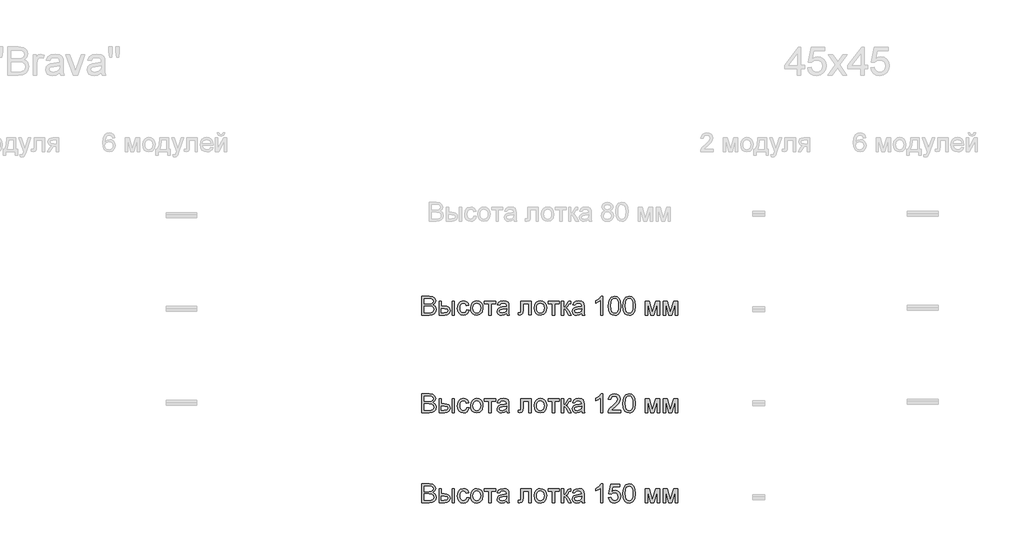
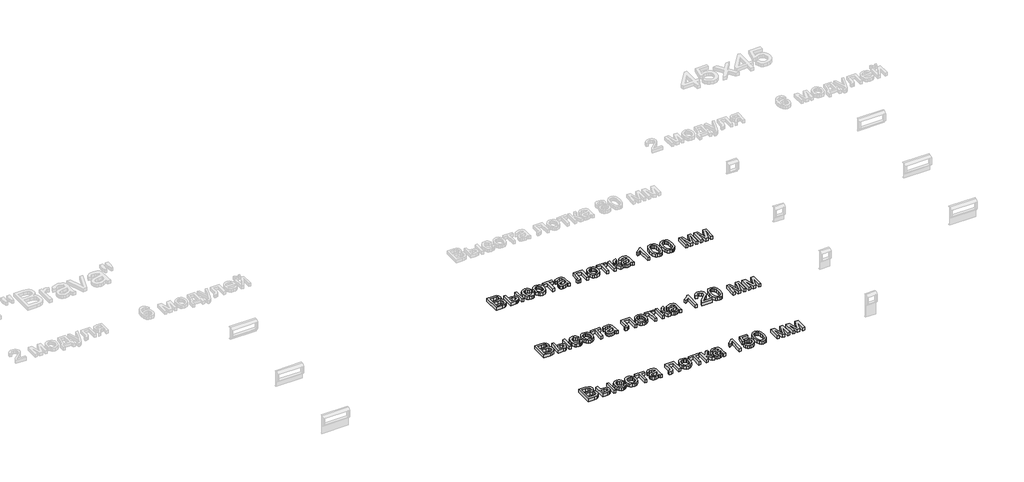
# One storey, part 11 of 28: 3 proxies.
"""IFC4 building model written with IfcOpenShell, lengths in millimetres."""

from ifc_helpers import new_model, si_unit, origin, origin_with_axes, place, context, project, spatial, polyline, outline, extrude, element, save

model = new_model("IFC4")

# Units and contexts
model_context = context("Model", 3, world=origin())
ifc_project = project(units=[si_unit("LENGTHUNIT", "METRE", prefix="MILLI")], contexts=[model_context])

# Site, building, storey
site = spatial("IfcSite", under=ifc_project)
building = spatial("IfcBuilding", under=site)
storey = spatial("IfcBuildingStorey", under=building, Name="Этаж 01", Elevation=0.0)

# Proxies
placement = place(None, origin())
element("IfcBuildingElementProxy", 1, Name="100 мм Arial", ObjectType="100 мм Arial", at=placement, inside=storey, context=model_context, shape_type="SweptSolid", body=[
    extrude(outline(polyline([(9877.0688437, -12466.5703412), (9877.0688437, -12366.114031), (9915.4021476, -12366.114031), (9934.1763921, -12369.0693497), (9945.2619029, -12378.156035), (9949.2718166, -12391.0073794), (9945.899565, -12402.742815), (9935.7092337, -12411.6332966), (9948.0823315, -12421.0020247), (9952.4110763, -12436.6247468), (9949.4557576, -12450.126016), (9942.1349059, -12459.7399988), (9931.2088107, -12464.8412958), (9915.107842, -12466.5703412), (9877.0688437, -12466.5703412)]), holes=[polyline([(9889.6258825, -12406.924407), (9912.5571935, -12406.924407), (9925.9480981, -12405.8452865), (9934.0047138, -12401.1977106), (9936.7147778, -12393.0184676), (9934.1886548, -12384.8269619), (9926.9536422, -12379.9831823), (9910.8158854, -12378.6710698), (9889.6258825, -12378.6710698), (9889.6258825, -12406.924407)]), polyline([(9889.6258825, -12454.0133024), (9915.3776221, -12454.0133024), (9924.6972993, -12453.5227931), (9932.5822368, -12450.7882036), (9937.8061611, -12445.20866), (9939.8540375, -12436.7473741), (9937.4505418, -12426.9862385), (9929.6637063, -12421.1614402), (9914.1513488, -12419.4814458), (9889.6258825, -12419.4814458), (9889.6258825, -12454.0133024)])]), origin_with_axes(), (0.0, 0.0, 1.0), 20.0),
    extrude(outline(polyline([(10037.171088, -12392.7977384), (10049.7281268, -12392.7977384), (10049.7281268, -12466.5703412), (10037.171088, -12466.5703412), (10037.171088, -12392.7977384)])), origin_with_axes(), (0.0, 0.0, 1.0), 20.0),
    extrude(outline(polyline([(9968.1073748, -12392.7977384), (9980.6644135, -12392.7977384), (9980.6644135, -12419.4814458), (9996.1890337, -12419.4814458), (10009.6075295, -12421.0541413), (10019.5495404, -12425.7722279), (10025.7023668, -12433.2555608), (10027.7533089, -12443.1239954), (10026.0334606, -12452.1095131), (10020.8739156, -12459.6909479), (10011.9374488, -12464.8504929), (9998.886835, -12466.5703412), (9968.1073748, -12466.5703412), (9968.1073748, -12392.7977384)]), holes=[polyline([(9980.6644135, -12454.0133024), (9993.5648088, -12454.0133024), (10010.2176005, -12451.3768148), (10015.1962702, -12443.1485208), (10011.5051875, -12435.4229989), (9995.2080151, -12432.0384846), (9980.6644135, -12432.0384846), (9980.6644135, -12454.0133024)])]), origin_with_axes(), (0.0, 0.0, 1.0), 20.0),
    extrude(outline(polyline([(10115.6525803, -12439.8866338), (10128.2096191, -12441.4562636), (10124.7086087, -12452.6245479), (10118.1296524, -12461.064374), (10109.0920181, -12466.3710718), (10098.2149737, -12468.139971), (10084.8577916, -12465.672096), (10074.4130086, -12458.2684708), (10067.6715711, -12446.254058), (10065.4244252, -12429.9538199), (10069.2626607, -12409.0949108), (10080.9613082, -12395.6917434), (10098.0432955, -12391.2281086), (10108.6536253, -12392.7609502), (10117.136371, -12397.3594752), (10123.2217524, -12404.7784287), (10126.6399892, -12414.7725563), (10114.0829505, -12416.3421861), (10108.2581522, -12406.9366698), (10098.1413973, -12403.7851473), (10090.0265337, -12405.3363831), (10083.5855331, -12409.9900903), (10079.3824813, -12417.9976551), (10077.981464, -12429.6104634), (10079.3518244, -12441.3796216), (10083.4629057, -12449.4147775), (10089.7874104, -12454.0408936), (10097.7980408, -12455.5829323), (10109.6315783, -12451.732434), (10115.6525803, -12439.8866338)])), origin_with_axes(), (0.0, 0.0, 1.0), 20.0),
    extrude(outline(polyline([(10136.0577683, -12429.6840398), (10138.7739637, -12411.8969453), (10146.9225499, -12399.3950889), (10156.9902538, -12393.2698536), (10169.0445205, -12391.2281086), (10182.2361557, -12393.7143777), (10192.7729092, -12401.1731852), (10199.6798937, -12413.0159197), (10201.9822218, -12428.6539702), (10197.9109944, -12450.9966701), (10186.0529314, -12463.639548), (10169.0445205, -12468.139971), (10155.6934698, -12465.6628989), (10145.168979, -12458.2316826), (10138.335571, -12446.1406277), (10136.0577683, -12429.6840398)]), holes=[polyline([(10148.6148071, -12429.6595143), (10150.0679409, -12441.0240023), (10154.4273426, -12449.1204719), (10160.9879048, -12453.9673172), (10169.0445205, -12455.5829323), (10177.064348, -12453.9581201), (10183.6126475, -12449.0836837), (10187.9720492, -12440.8799152), (10189.4251831, -12429.2671069), (10187.9628521, -12418.2337127), (10183.5758593, -12410.2476077), (10177.0183628, -12405.4007624), (10169.0445205, -12403.7851473), (10160.9879048, -12405.3946311), (10154.4273426, -12410.2230823), (10150.0679409, -12418.3011577), (10148.6148071, -12429.6595143)])]), origin_with_axes(), (0.0, 0.0, 1.0), 20.0),
    extrude(outline(polyline([(10209.8303711, -12392.7977384), (10269.4763052, -12392.7977384), (10269.4763052, -12405.3547772), (10245.9318575, -12405.3547772), (10245.9318575, -12466.5703412), (10233.3748188, -12466.5703412), (10233.3748188, -12405.3547772), (10209.8303711, -12405.3547772), (10209.8303711, -12392.7977384)])), origin_with_axes(), (0.0, 0.0, 1.0), 20.0),
    extrude(outline(polyline([(10327.5526095, -12457.1525621), (10315.3757155, -12465.6628989), (10301.9234972, -12468.139971), (10291.4296633, -12466.6500489), (10283.688813, -12462.1802827), (10278.9155441, -12455.3928599), (10277.3244544, -12446.9499681), (10279.7279501, -12437.0171542), (10286.0432577, -12429.8066671), (10294.8356374, -12425.6863888), (10305.700419, -12423.7979279), (10327.4790331, -12419.4814458), (10327.5526095, -12416.6855426), (10324.0945188, -12407.4149164), (10310.2131048, -12403.7851473), (10297.5089132, -12406.2009058), (10291.4511231, -12414.7725563), (10278.8940843, -12413.2029264), (10284.3264751, -12400.9401932), (10295.2648331, -12393.7542316), (10311.8317856, -12391.2281086), (10327.0498375, -12393.459926), (10335.6460134, -12399.0639951), (10339.4965116, -12407.5865946), (10340.1096483, -12418.5740035), (10340.1096483, -12434.1967256), (10340.7473104, -12456.0121279), (10343.248908, -12466.5703412), (10330.6918692, -12466.5703412), (10327.5526095, -12457.1525621)]), holes=[polyline([(10327.5526095, -12432.0384846), (10307.2945743, -12435.8889828), (10296.4911064, -12437.9245965), (10291.5982759, -12441.2355344), (10289.8814932, -12446.0670513), (10293.6216268, -12452.8606055), (10304.596773, -12455.5829323), (10317.3009646, -12452.5785626), (10325.4924703, -12445.3067619), (10327.4790331, -12435.5946772), (10327.5526095, -12432.0384846)])]), origin_with_axes(), (0.0, 0.0, 1.0), 20.0),
    extrude(outline(polyline([(10402.8948421, -12392.7977384), (10459.4015166, -12392.7977384), (10459.4015166, -12466.4967648), (10446.8444778, -12466.4967648), (10446.8444778, -12405.3547772), (10415.4518809, -12405.3547772), (10415.4518809, -12440.5488214), (10414.6057523, -12456.7846801), (10409.9581764, -12463.639548), (10398.9707675, -12466.5703412), (10388.7681735, -12465.9326791), (10388.7681735, -12454.0133024), (10394.3845053, -12454.0133024), (10400.0621508, -12453.2407502), (10402.3307564, -12450.7882036), (10402.8948421, -12439.8375829), (10402.8948421, -12392.7977384)])), origin_with_axes(), (0.0, 0.0, 1.0), 20.0),
    extrude(outline(polyline([(10475.0978151, -12429.6840398), (10477.8140105, -12411.8969453), (10485.9625966, -12399.3950889), (10496.0303006, -12393.2698536), (10508.0845673, -12391.2281086), (10521.2762025, -12393.7143777), (10531.812956, -12401.1731852), (10538.7199404, -12413.0159197), (10541.0222686, -12428.6539702), (10536.9510412, -12450.9966701), (10525.0929782, -12463.639548), (10508.0845673, -12468.139971), (10494.7335165, -12465.6628989), (10484.2090258, -12458.2316826), (10477.3756177, -12446.1406277), (10475.0978151, -12429.6840398)]), holes=[polyline([(10487.6548538, -12429.6595143), (10489.1079877, -12441.0240023), (10493.4673893, -12449.1204719), (10500.0279516, -12453.9673172), (10508.0845673, -12455.5829323), (10516.1043948, -12453.9581201), (10522.6526943, -12449.0836837), (10527.0120959, -12440.8799152), (10528.4652298, -12429.2671069), (10527.0028989, -12418.2337127), (10522.6159061, -12410.2476077), (10516.0584095, -12405.4007624), (10508.0845673, -12403.7851473), (10500.0279516, -12405.3946311), (10493.4673893, -12410.2230823), (10489.1079877, -12418.3011577), (10487.6548538, -12429.6595143)])]), origin_with_axes(), (0.0, 0.0, 1.0), 20.0),
    extrude(outline(polyline([(10548.8704178, -12392.7977384), (10608.516352, -12392.7977384), (10608.516352, -12405.3547772), (10584.9719043, -12405.3547772), (10584.9719043, -12466.5703412), (10572.4148655, -12466.5703412), (10572.4148655, -12405.3547772), (10548.8704178, -12405.3547772), (10548.8704178, -12392.7977384)])), origin_with_axes(), (0.0, 0.0, 1.0), 20.0),
    extrude(outline(polyline([(10619.5037609, -12392.7977384), (10632.0607997, -12392.7977384), (10632.0607997, -12424.1903353), (10640.4730346, -12421.9339924), (10647.3646907, -12408.7883425), (10653.0913871, -12397.4453143), (10658.1436331, -12393.7542316), (10667.3284203, -12392.7977384), (10669.731916, -12392.7977384), (10669.731916, -12405.4283536), (10666.3474016, -12405.3547772), (10660.216035, -12406.6791524), (10655.899553, -12414.9442345), (10650.8350442, -12423.883767), (10643.7349216, -12428.2615628), (10651.6566473, -12433.1482619), (10659.4312201, -12443.4428264), (10672.8711757, -12466.5703412), (10658.5973542, -12466.5703412), (10645.4271788, -12443.9333357), (10638.8053029, -12434.3561411), (10632.0607997, -12432.0384846), (10632.0607997, -12466.5703412), (10619.5037609, -12466.5703412), (10619.5037609, -12392.7977384)])), origin_with_axes(), (0.0, 0.0, 1.0), 20.0),
    extrude(outline(polyline([(10727.8082203, -12457.1525621), (10715.6313262, -12465.6628989), (10702.1791079, -12468.139971), (10691.685274, -12466.6500489), (10683.9444237, -12462.1802827), (10679.1711548, -12455.3928599), (10677.5800652, -12446.9499681), (10679.9835609, -12437.0171542), (10686.2988685, -12429.8066671), (10695.0912482, -12425.6863888), (10705.9560298, -12423.7979279), (10727.7346439, -12419.4814458), (10727.8082203, -12416.6855426), (10724.3501295, -12407.4149164), (10710.4687156, -12403.7851473), (10697.764524, -12406.2009058), (10691.7067338, -12414.7725563), (10679.149695, -12413.2029264), (10684.5820858, -12400.9401932), (10695.5204438, -12393.7542316), (10712.0873963, -12391.2281086), (10727.3054482, -12393.459926), (10735.9016242, -12399.0639951), (10739.7521224, -12407.5865946), (10740.365259, -12418.5740035), (10740.365259, -12434.1967256), (10741.0029212, -12456.0121279), (10743.5045187, -12466.5703412), (10730.94748, -12466.5703412), (10727.8082203, -12457.1525621)]), holes=[polyline([(10727.8082203, -12432.0384846), (10707.5501851, -12435.8889828), (10696.7467171, -12437.9245965), (10691.8538866, -12441.2355344), (10690.137104, -12446.0670513), (10693.8772376, -12452.8606055), (10704.8523838, -12455.5829323), (10717.5565753, -12452.5785626), (10725.7480811, -12445.3067619), (10727.7346439, -12435.5946772), (10727.8082203, -12432.0384846)])]), origin_with_axes(), (0.0, 0.0, 1.0), 20.0),
    extrude(outline(polyline([(10840.8215692, -12466.5703412), (10828.2645304, -12466.5703412), (10828.2645304, -12388.2850526), (10816.3696792, -12396.7586012), (10803.1504529, -12403.0984343), (10803.1504529, -12391.2281086), (10821.5568154, -12379.4804102), (10832.7281653, -12366.114031), (10840.8215692, -12366.114031), (10840.8215692, -12466.5703412)])), origin_with_axes(), (0.0, 0.0, 1.0), 20.0),
    extrude(outline(polyline([(10870.6445363, -12417.1515265), (10874.335619, -12388.2482644), (10885.2985024, -12371.58321), (10903.606763, -12366.114031), (10918.2729919, -12369.3513926), (10928.4020095, -12378.6833325), (10934.2881214, -12393.5457651), (10936.5689898, -12417.1515265), (10932.9146953, -12445.9321613), (10921.9886001, -12462.6340038), (10913.7572404, -12466.7634792), (10903.606763, -12468.139971), (10890.5592149, -12465.7487381), (10880.6509265, -12458.5750392), (10873.1461338, -12441.5850223), (10870.6445363, -12417.1515265)]), holes=[polyline([(10883.201575, -12417.127001), (10884.673103, -12436.8791985), (10889.087687, -12448.3111315), (10895.6605119, -12453.7649821), (10903.606763, -12455.5829323), (10911.5530141, -12453.7588507), (10918.1258391, -12448.286606), (10922.5404231, -12436.8485417), (10924.011951, -12417.127001), (10922.589474, -12397.8193277), (10918.3220428, -12386.2984898), (10911.7614806, -12380.5779248), (10903.4596102, -12378.6710698), (10895.5991983, -12380.3510642), (10889.2838907, -12385.3910476), (10884.722154, -12397.6292553), (10883.201575, -12417.127001)])]), origin_with_axes(), (0.0, 0.0, 1.0), 20.0),
    extrude(outline(polyline([(10947.5563987, -12417.1515265), (10951.2474814, -12388.2482644), (10962.2103649, -12371.58321), (10980.5186255, -12366.114031), (10995.1848544, -12369.3513926), (11005.313872, -12378.6833325), (11011.1999839, -12393.5457651), (11013.4808523, -12417.1515265), (11009.8265578, -12445.9321613), (10998.9004625, -12462.6340038), (10990.6691029, -12466.7634792), (10980.5186255, -12468.139971), (10967.4710774, -12465.7487381), (10957.562789, -12458.5750392), (10950.0579963, -12441.5850223), (10947.5563987, -12417.1515265)]), holes=[polyline([(10960.1134375, -12417.127001), (10961.5849655, -12436.8791985), (10965.9995494, -12448.3111315), (10972.5723744, -12453.7649821), (10980.5186255, -12455.5829323), (10988.4648766, -12453.7588507), (10995.0377016, -12448.286606), (10999.4522855, -12436.8485417), (11000.9238135, -12417.127001), (10999.5013364, -12397.8193277), (10995.2339053, -12386.2984898), (10988.6733431, -12380.5779248), (10980.3714727, -12378.6710698), (10972.5110607, -12380.3510642), (10966.1957531, -12385.3910476), (10961.6340164, -12397.6292553), (10960.1134375, -12417.127001)])]), origin_with_axes(), (0.0, 0.0, 1.0), 20.0),
    extrude(outline(polyline([(11066.848267, -12392.7977384), (11088.4552029, -12392.7977384), (11105.1079945, -12451.8550614), (11123.0606359, -12392.7977384), (11143.7601295, -12392.7977384), (11143.7601295, -12466.5703412), (11131.2030907, -12466.5703412), (11131.2030907, -12407.1696617), (11113.1523475, -12466.5703412), (11096.6712341, -12466.5703412), (11079.4053058, -12404.3247076), (11079.4053058, -12466.5703412), (11066.848267, -12466.5703412), (11066.848267, -12392.7977384)])), origin_with_axes(), (0.0, 0.0, 1.0), 20.0),
    extrude(outline(polyline([(11162.5956876, -12392.7977384), (11184.2026235, -12392.7977384), (11200.8554151, -12451.8550614), (11218.8080565, -12392.7977384), (11239.5075501, -12392.7977384), (11239.5075501, -12466.5703412), (11226.9505113, -12466.5703412), (11226.9505113, -12407.1696617), (11208.8997681, -12466.5703412), (11192.4186547, -12466.5703412), (11175.1527264, -12404.3247076), (11175.1527264, -12466.5703412), (11162.5956876, -12466.5703412), (11162.5956876, -12392.7977384)])), origin_with_axes(), (0.0, 0.0, 1.0), 20.0),
])
element("IfcBuildingElementProxy", 2, Name="100 мм Arial", ObjectType="100 мм Arial", at=placement, inside=storey, context=model_context, shape_type="SweptSolid", body=[
    extrude(outline(polyline([(9877.0688437, -12986.5703412), (9877.0688437, -12886.114031), (9915.4021476, -12886.114031), (9934.1763921, -12889.0693497), (9945.2619029, -12898.156035), (9949.2718166, -12911.0073794), (9945.899565, -12922.742815), (9935.7092337, -12931.6332966), (9948.0823315, -12941.0020247), (9952.4110763, -12956.6247468), (9949.4557576, -12970.126016), (9942.1349059, -12979.7399988), (9931.2088107, -12984.8412958), (9915.107842, -12986.5703412), (9877.0688437, -12986.5703412)]), holes=[polyline([(9889.6258825, -12926.924407), (9912.5571935, -12926.924407), (9925.9480981, -12925.8452865), (9934.0047138, -12921.1977106), (9936.7147778, -12913.0184676), (9934.1886548, -12904.8269619), (9926.9536422, -12899.9831823), (9910.8158854, -12898.6710698), (9889.6258825, -12898.6710698), (9889.6258825, -12926.924407)]), polyline([(9889.6258825, -12974.0133024), (9915.3776221, -12974.0133024), (9924.6972993, -12973.5227931), (9932.5822368, -12970.7882036), (9937.8061611, -12965.20866), (9939.8540375, -12956.7473741), (9937.4505418, -12946.9862385), (9929.6637063, -12941.1614402), (9914.1513488, -12939.4814458), (9889.6258825, -12939.4814458), (9889.6258825, -12974.0133024)])]), origin_with_axes(), (0.0, 0.0, 1.0), 20.0),
    extrude(outline(polyline([(10037.171088, -12912.7977384), (10049.7281268, -12912.7977384), (10049.7281268, -12986.5703412), (10037.171088, -12986.5703412), (10037.171088, -12912.7977384)])), origin_with_axes(), (0.0, 0.0, 1.0), 20.0),
    extrude(outline(polyline([(9968.1073748, -12912.7977384), (9980.6644135, -12912.7977384), (9980.6644135, -12939.4814458), (9996.1890337, -12939.4814458), (10009.6075295, -12941.0541413), (10019.5495404, -12945.7722279), (10025.7023668, -12953.2555608), (10027.7533089, -12963.1239954), (10026.0334606, -12972.1095131), (10020.8739156, -12979.6909479), (10011.9374488, -12984.8504929), (9998.886835, -12986.5703412), (9968.1073748, -12986.5703412), (9968.1073748, -12912.7977384)]), holes=[polyline([(9980.6644135, -12974.0133024), (9993.5648088, -12974.0133024), (10010.2176005, -12971.3768148), (10015.1962702, -12963.1485208), (10011.5051875, -12955.4229989), (9995.2080151, -12952.0384846), (9980.6644135, -12952.0384846), (9980.6644135, -12974.0133024)])]), origin_with_axes(), (0.0, 0.0, 1.0), 20.0),
    extrude(outline(polyline([(10115.6525803, -12959.8866338), (10128.2096191, -12961.4562636), (10124.7086087, -12972.6245479), (10118.1296524, -12981.064374), (10109.0920181, -12986.3710718), (10098.2149737, -12988.139971), (10084.8577916, -12985.672096), (10074.4130086, -12978.2684708), (10067.6715711, -12966.254058), (10065.4244252, -12949.9538199), (10069.2626607, -12929.0949108), (10080.9613082, -12915.6917434), (10098.0432955, -12911.2281086), (10108.6536253, -12912.7609502), (10117.136371, -12917.3594752), (10123.2217524, -12924.7784287), (10126.6399892, -12934.7725563), (10114.0829505, -12936.3421861), (10108.2581522, -12926.9366698), (10098.1413973, -12923.7851473), (10090.0265337, -12925.3363831), (10083.5855331, -12929.9900903), (10079.3824813, -12937.9976551), (10077.981464, -12949.6104634), (10079.3518244, -12961.3796216), (10083.4629057, -12969.4147775), (10089.7874104, -12974.0408936), (10097.7980408, -12975.5829323), (10109.6315783, -12971.732434), (10115.6525803, -12959.8866338)])), origin_with_axes(), (0.0, 0.0, 1.0), 20.0),
    extrude(outline(polyline([(10136.0577683, -12949.6840398), (10138.7739637, -12931.8969453), (10146.9225499, -12919.3950889), (10156.9902538, -12913.2698536), (10169.0445205, -12911.2281086), (10182.2361557, -12913.7143777), (10192.7729092, -12921.1731852), (10199.6798937, -12933.0159197), (10201.9822218, -12948.6539702), (10197.9109944, -12970.9966701), (10186.0529314, -12983.639548), (10169.0445205, -12988.139971), (10155.6934698, -12985.6628989), (10145.168979, -12978.2316826), (10138.335571, -12966.1406277), (10136.0577683, -12949.6840398)]), holes=[polyline([(10148.6148071, -12949.6595143), (10150.0679409, -12961.0240023), (10154.4273426, -12969.1204719), (10160.9879048, -12973.9673172), (10169.0445205, -12975.5829323), (10177.064348, -12973.9581201), (10183.6126475, -12969.0836837), (10187.9720492, -12960.8799152), (10189.4251831, -12949.2671069), (10187.9628521, -12938.2337127), (10183.5758593, -12930.2476077), (10177.0183628, -12925.4007624), (10169.0445205, -12923.7851473), (10160.9879048, -12925.3946311), (10154.4273426, -12930.2230823), (10150.0679409, -12938.3011577), (10148.6148071, -12949.6595143)])]), origin_with_axes(), (0.0, 0.0, 1.0), 20.0),
    extrude(outline(polyline([(10209.8303711, -12912.7977384), (10269.4763052, -12912.7977384), (10269.4763052, -12925.3547772), (10245.9318575, -12925.3547772), (10245.9318575, -12986.5703412), (10233.3748188, -12986.5703412), (10233.3748188, -12925.3547772), (10209.8303711, -12925.3547772), (10209.8303711, -12912.7977384)])), origin_with_axes(), (0.0, 0.0, 1.0), 20.0),
    extrude(outline(polyline([(10327.5526095, -12977.1525621), (10315.3757155, -12985.6628989), (10301.9234972, -12988.139971), (10291.4296633, -12986.6500489), (10283.688813, -12982.1802827), (10278.9155441, -12975.3928599), (10277.3244544, -12966.9499681), (10279.7279501, -12957.0171542), (10286.0432577, -12949.8066671), (10294.8356374, -12945.6863888), (10305.700419, -12943.7979279), (10327.4790331, -12939.4814458), (10327.5526095, -12936.6855426), (10324.0945188, -12927.4149164), (10310.2131048, -12923.7851473), (10297.5089132, -12926.2009058), (10291.4511231, -12934.7725563), (10278.8940843, -12933.2029264), (10284.3264751, -12920.9401932), (10295.2648331, -12913.7542316), (10311.8317856, -12911.2281086), (10327.0498375, -12913.459926), (10335.6460134, -12919.0639951), (10339.4965116, -12927.5865946), (10340.1096483, -12938.5740035), (10340.1096483, -12954.1967256), (10340.7473104, -12976.0121279), (10343.248908, -12986.5703412), (10330.6918692, -12986.5703412), (10327.5526095, -12977.1525621)]), holes=[polyline([(10327.5526095, -12952.0384846), (10307.2945743, -12955.8889828), (10296.4911064, -12957.9245965), (10291.5982759, -12961.2355344), (10289.8814932, -12966.0670513), (10293.6216268, -12972.8606055), (10304.596773, -12975.5829323), (10317.3009646, -12972.5785626), (10325.4924703, -12965.3067619), (10327.4790331, -12955.5946772), (10327.5526095, -12952.0384846)])]), origin_with_axes(), (0.0, 0.0, 1.0), 20.0),
    extrude(outline(polyline([(10402.8948421, -12912.7977384), (10459.4015166, -12912.7977384), (10459.4015166, -12986.4967648), (10446.8444778, -12986.4967648), (10446.8444778, -12925.3547772), (10415.4518809, -12925.3547772), (10415.4518809, -12960.5488214), (10414.6057523, -12976.7846801), (10409.9581764, -12983.639548), (10398.9707675, -12986.5703412), (10388.7681735, -12985.9326791), (10388.7681735, -12974.0133024), (10394.3845053, -12974.0133024), (10400.0621508, -12973.2407502), (10402.3307564, -12970.7882036), (10402.8948421, -12959.8375829), (10402.8948421, -12912.7977384)])), origin_with_axes(), (0.0, 0.0, 1.0), 20.0),
    extrude(outline(polyline([(10475.0978151, -12949.6840398), (10477.8140105, -12931.8969453), (10485.9625966, -12919.3950889), (10496.0303006, -12913.2698536), (10508.0845673, -12911.2281086), (10521.2762025, -12913.7143777), (10531.812956, -12921.1731852), (10538.7199404, -12933.0159197), (10541.0222686, -12948.6539702), (10536.9510412, -12970.9966701), (10525.0929782, -12983.639548), (10508.0845673, -12988.139971), (10494.7335165, -12985.6628989), (10484.2090258, -12978.2316826), (10477.3756177, -12966.1406277), (10475.0978151, -12949.6840398)]), holes=[polyline([(10487.6548538, -12949.6595143), (10489.1079877, -12961.0240023), (10493.4673893, -12969.1204719), (10500.0279516, -12973.9673172), (10508.0845673, -12975.5829323), (10516.1043948, -12973.9581201), (10522.6526943, -12969.0836837), (10527.0120959, -12960.8799152), (10528.4652298, -12949.2671069), (10527.0028989, -12938.2337127), (10522.6159061, -12930.2476077), (10516.0584095, -12925.4007624), (10508.0845673, -12923.7851473), (10500.0279516, -12925.3946311), (10493.4673893, -12930.2230823), (10489.1079877, -12938.3011577), (10487.6548538, -12949.6595143)])]), origin_with_axes(), (0.0, 0.0, 1.0), 20.0),
    extrude(outline(polyline([(10548.8704178, -12912.7977384), (10608.516352, -12912.7977384), (10608.516352, -12925.3547772), (10584.9719043, -12925.3547772), (10584.9719043, -12986.5703412), (10572.4148655, -12986.5703412), (10572.4148655, -12925.3547772), (10548.8704178, -12925.3547772), (10548.8704178, -12912.7977384)])), origin_with_axes(), (0.0, 0.0, 1.0), 20.0),
    extrude(outline(polyline([(10619.5037609, -12912.7977384), (10632.0607997, -12912.7977384), (10632.0607997, -12944.1903353), (10640.4730346, -12941.9339924), (10647.3646907, -12928.7883425), (10653.0913871, -12917.4453143), (10658.1436331, -12913.7542316), (10667.3284203, -12912.7977384), (10669.731916, -12912.7977384), (10669.731916, -12925.4283536), (10666.3474016, -12925.3547772), (10660.216035, -12926.6791524), (10655.899553, -12934.9442345), (10650.8350442, -12943.883767), (10643.7349216, -12948.2615628), (10651.6566473, -12953.1482619), (10659.4312201, -12963.4428264), (10672.8711757, -12986.5703412), (10658.5973542, -12986.5703412), (10645.4271788, -12963.9333357), (10638.8053029, -12954.3561411), (10632.0607997, -12952.0384846), (10632.0607997, -12986.5703412), (10619.5037609, -12986.5703412), (10619.5037609, -12912.7977384)])), origin_with_axes(), (0.0, 0.0, 1.0), 20.0),
    extrude(outline(polyline([(10727.8082203, -12977.1525621), (10715.6313262, -12985.6628989), (10702.1791079, -12988.139971), (10691.685274, -12986.6500489), (10683.9444237, -12982.1802827), (10679.1711548, -12975.3928599), (10677.5800652, -12966.9499681), (10679.9835609, -12957.0171542), (10686.2988685, -12949.8066671), (10695.0912482, -12945.6863888), (10705.9560298, -12943.7979279), (10727.7346439, -12939.4814458), (10727.8082203, -12936.6855426), (10724.3501295, -12927.4149164), (10710.4687156, -12923.7851473), (10697.764524, -12926.2009058), (10691.7067338, -12934.7725563), (10679.149695, -12933.2029264), (10684.5820858, -12920.9401932), (10695.5204438, -12913.7542316), (10712.0873963, -12911.2281086), (10727.3054482, -12913.459926), (10735.9016242, -12919.0639951), (10739.7521224, -12927.5865946), (10740.365259, -12938.5740035), (10740.365259, -12954.1967256), (10741.0029212, -12976.0121279), (10743.5045187, -12986.5703412), (10730.94748, -12986.5703412), (10727.8082203, -12977.1525621)]), holes=[polyline([(10727.8082203, -12952.0384846), (10707.5501851, -12955.8889828), (10696.7467171, -12957.9245965), (10691.8538866, -12961.2355344), (10690.137104, -12966.0670513), (10693.8772376, -12972.8606055), (10704.8523838, -12975.5829323), (10717.5565753, -12972.5785626), (10725.7480811, -12965.3067619), (10727.7346439, -12955.5946772), (10727.8082203, -12952.0384846)])]), origin_with_axes(), (0.0, 0.0, 1.0), 20.0),
    extrude(outline(polyline([(10840.8215692, -12986.5703412), (10828.2645304, -12986.5703412), (10828.2645304, -12908.2850526), (10816.3696792, -12916.7586012), (10803.1504529, -12923.0984343), (10803.1504529, -12911.2281086), (10821.5568154, -12899.4804102), (10832.7281653, -12886.114031), (10840.8215692, -12886.114031), (10840.8215692, -12986.5703412)])), origin_with_axes(), (0.0, 0.0, 1.0), 20.0),
    extrude(outline(polyline([(10934.99936, -12974.0133024), (10934.99936, -12986.5703412), (10869.0749064, -12986.5703412), (10870.4238071, -12977.9128516), (10878.0512271, -12964.5832606), (10893.772051, -12950.0273963), (10915.4525633, -12929.1071735), (10920.8726913, -12914.8824031), (10915.7591316, -12903.3676966), (10902.4050152, -12898.6710698), (10888.486813, -12903.257332), (10883.201575, -12915.9369981), (10870.6445363, -12914.3673683), (10873.6887598, -12902.2211311), (10880.2707818, -12893.3490436), (10890.0472458, -12887.9227842), (10902.6747953, -12886.114031), (10915.3943153, -12888.1251193), (10925.1523852, -12894.158384), (10931.3603939, -12903.1714929), (10933.4297301, -12914.1221136), (10931.1979127, -12926.0292275), (10923.7789591, -12938.3410116), (10905.7895295, -12955.5456263), (10891.3440299, -12967.6244184), (10885.6786471, -12974.0133024), (10934.99936, -12974.0133024)])), origin_with_axes(), (0.0, 0.0, 1.0), 20.0),
    extrude(outline(polyline([(10947.5563987, -12937.1515265), (10951.2474814, -12908.2482644), (10962.2103649, -12891.58321), (10980.5186255, -12886.114031), (10995.1848544, -12889.3513926), (11005.313872, -12898.6833325), (11011.1999839, -12913.5457651), (11013.4808523, -12937.1515265), (11009.8265578, -12965.9321613), (10998.9004625, -12982.6340038), (10990.6691029, -12986.7634792), (10980.5186255, -12988.139971), (10967.4710774, -12985.7487381), (10957.562789, -12978.5750392), (10950.0579963, -12961.5850223), (10947.5563987, -12937.1515265)]), holes=[polyline([(10960.1134375, -12937.127001), (10961.5849655, -12956.8791985), (10965.9995494, -12968.3111315), (10972.5723744, -12973.7649821), (10980.5186255, -12975.5829323), (10988.4648766, -12973.7588507), (10995.0377016, -12968.286606), (10999.4522855, -12956.8485417), (11000.9238135, -12937.127001), (10999.5013364, -12917.8193277), (10995.2339053, -12906.2984898), (10988.6733431, -12900.5779248), (10980.3714727, -12898.6710698), (10972.5110607, -12900.3510642), (10966.1957531, -12905.3910476), (10961.6340164, -12917.6292553), (10960.1134375, -12937.127001)])]), origin_with_axes(), (0.0, 0.0, 1.0), 20.0),
    extrude(outline(polyline([(11066.848267, -12912.7977384), (11088.4552029, -12912.7977384), (11105.1079945, -12971.8550614), (11123.0606359, -12912.7977384), (11143.7601295, -12912.7977384), (11143.7601295, -12986.5703412), (11131.2030907, -12986.5703412), (11131.2030907, -12927.1696617), (11113.1523475, -12986.5703412), (11096.6712341, -12986.5703412), (11079.4053058, -12924.3247076), (11079.4053058, -12986.5703412), (11066.848267, -12986.5703412), (11066.848267, -12912.7977384)])), origin_with_axes(), (0.0, 0.0, 1.0), 20.0),
    extrude(outline(polyline([(11162.5956876, -12912.7977384), (11184.2026235, -12912.7977384), (11200.8554151, -12971.8550614), (11218.8080565, -12912.7977384), (11239.5075501, -12912.7977384), (11239.5075501, -12986.5703412), (11226.9505113, -12986.5703412), (11226.9505113, -12927.1696617), (11208.8997681, -12986.5703412), (11192.4186547, -12986.5703412), (11175.1527264, -12924.3247076), (11175.1527264, -12986.5703412), (11162.5956876, -12986.5703412), (11162.5956876, -12912.7977384)])), origin_with_axes(), (0.0, 0.0, 1.0), 20.0),
])
element("IfcBuildingElementProxy", 3, Name="100 мм Arial", ObjectType="100 мм Arial", at=placement, inside=storey, context=model_context, shape_type="SweptSolid", body=[
    extrude(outline(polyline([(9877.0688437, -13466.5703412), (9877.0688437, -13366.114031), (9915.4021476, -13366.114031), (9934.1763921, -13369.0693497), (9945.2619029, -13378.156035), (9949.2718166, -13391.0073794), (9945.899565, -13402.742815), (9935.7092337, -13411.6332966), (9948.0823315, -13421.0020247), (9952.4110763, -13436.6247468), (9949.4557576, -13450.126016), (9942.1349059, -13459.7399988), (9931.2088107, -13464.8412958), (9915.107842, -13466.5703412), (9877.0688437, -13466.5703412)]), holes=[polyline([(9889.6258825, -13406.924407), (9912.5571935, -13406.924407), (9925.9480981, -13405.8452865), (9934.0047138, -13401.1977106), (9936.7147778, -13393.0184676), (9934.1886548, -13384.8269619), (9926.9536422, -13379.9831823), (9910.8158854, -13378.6710698), (9889.6258825, -13378.6710698), (9889.6258825, -13406.924407)]), polyline([(9889.6258825, -13454.0133024), (9915.3776221, -13454.0133024), (9924.6972993, -13453.5227931), (9932.5822368, -13450.7882036), (9937.8061611, -13445.20866), (9939.8540375, -13436.7473741), (9937.4505418, -13426.9862385), (9929.6637063, -13421.1614402), (9914.1513488, -13419.4814458), (9889.6258825, -13419.4814458), (9889.6258825, -13454.0133024)])]), origin_with_axes(), (0.0, 0.0, 1.0), 20.0),
    extrude(outline(polyline([(10037.171088, -13392.7977384), (10049.7281268, -13392.7977384), (10049.7281268, -13466.5703412), (10037.171088, -13466.5703412), (10037.171088, -13392.7977384)])), origin_with_axes(), (0.0, 0.0, 1.0), 20.0),
    extrude(outline(polyline([(9968.1073748, -13392.7977384), (9980.6644135, -13392.7977384), (9980.6644135, -13419.4814458), (9996.1890337, -13419.4814458), (10009.6075295, -13421.0541413), (10019.5495404, -13425.7722279), (10025.7023668, -13433.2555608), (10027.7533089, -13443.1239954), (10026.0334606, -13452.1095131), (10020.8739156, -13459.6909479), (10011.9374488, -13464.8504929), (9998.886835, -13466.5703412), (9968.1073748, -13466.5703412), (9968.1073748, -13392.7977384)]), holes=[polyline([(9980.6644135, -13454.0133024), (9993.5648088, -13454.0133024), (10010.2176005, -13451.3768148), (10015.1962702, -13443.1485208), (10011.5051875, -13435.4229989), (9995.2080151, -13432.0384846), (9980.6644135, -13432.0384846), (9980.6644135, -13454.0133024)])]), origin_with_axes(), (0.0, 0.0, 1.0), 20.0),
    extrude(outline(polyline([(10115.6525803, -13439.8866338), (10128.2096191, -13441.4562636), (10124.7086087, -13452.6245479), (10118.1296524, -13461.064374), (10109.0920181, -13466.3710718), (10098.2149737, -13468.139971), (10084.8577916, -13465.672096), (10074.4130086, -13458.2684708), (10067.6715711, -13446.254058), (10065.4244252, -13429.9538199), (10069.2626607, -13409.0949108), (10080.9613082, -13395.6917434), (10098.0432955, -13391.2281086), (10108.6536253, -13392.7609502), (10117.136371, -13397.3594752), (10123.2217524, -13404.7784287), (10126.6399892, -13414.7725563), (10114.0829505, -13416.3421861), (10108.2581522, -13406.9366698), (10098.1413973, -13403.7851473), (10090.0265337, -13405.3363831), (10083.5855331, -13409.9900903), (10079.3824813, -13417.9976551), (10077.981464, -13429.6104634), (10079.3518244, -13441.3796216), (10083.4629057, -13449.4147775), (10089.7874104, -13454.0408936), (10097.7980408, -13455.5829323), (10109.6315783, -13451.732434), (10115.6525803, -13439.8866338)])), origin_with_axes(), (0.0, 0.0, 1.0), 20.0),
    extrude(outline(polyline([(10136.0577683, -13429.6840398), (10138.7739637, -13411.8969453), (10146.9225499, -13399.3950889), (10156.9902538, -13393.2698536), (10169.0445205, -13391.2281086), (10182.2361557, -13393.7143777), (10192.7729092, -13401.1731852), (10199.6798937, -13413.0159197), (10201.9822218, -13428.6539702), (10197.9109944, -13450.9966701), (10186.0529314, -13463.639548), (10169.0445205, -13468.139971), (10155.6934698, -13465.6628989), (10145.168979, -13458.2316826), (10138.335571, -13446.1406277), (10136.0577683, -13429.6840398)]), holes=[polyline([(10148.6148071, -13429.6595143), (10150.0679409, -13441.0240023), (10154.4273426, -13449.1204719), (10160.9879048, -13453.9673172), (10169.0445205, -13455.5829323), (10177.064348, -13453.9581201), (10183.6126475, -13449.0836837), (10187.9720492, -13440.8799152), (10189.4251831, -13429.2671069), (10187.9628521, -13418.2337127), (10183.5758593, -13410.2476077), (10177.0183628, -13405.4007624), (10169.0445205, -13403.7851473), (10160.9879048, -13405.3946311), (10154.4273426, -13410.2230823), (10150.0679409, -13418.3011577), (10148.6148071, -13429.6595143)])]), origin_with_axes(), (0.0, 0.0, 1.0), 20.0),
    extrude(outline(polyline([(10209.8303711, -13392.7977384), (10269.4763052, -13392.7977384), (10269.4763052, -13405.3547772), (10245.9318575, -13405.3547772), (10245.9318575, -13466.5703412), (10233.3748188, -13466.5703412), (10233.3748188, -13405.3547772), (10209.8303711, -13405.3547772), (10209.8303711, -13392.7977384)])), origin_with_axes(), (0.0, 0.0, 1.0), 20.0),
    extrude(outline(polyline([(10327.5526095, -13457.1525621), (10315.3757155, -13465.6628989), (10301.9234972, -13468.139971), (10291.4296633, -13466.6500489), (10283.688813, -13462.1802827), (10278.9155441, -13455.3928599), (10277.3244544, -13446.9499681), (10279.7279501, -13437.0171542), (10286.0432577, -13429.8066671), (10294.8356374, -13425.6863888), (10305.700419, -13423.7979279), (10327.4790331, -13419.4814458), (10327.5526095, -13416.6855426), (10324.0945188, -13407.4149164), (10310.2131048, -13403.7851473), (10297.5089132, -13406.2009058), (10291.4511231, -13414.7725563), (10278.8940843, -13413.2029264), (10284.3264751, -13400.9401932), (10295.2648331, -13393.7542316), (10311.8317856, -13391.2281086), (10327.0498375, -13393.459926), (10335.6460134, -13399.0639951), (10339.4965116, -13407.5865946), (10340.1096483, -13418.5740035), (10340.1096483, -13434.1967256), (10340.7473104, -13456.0121279), (10343.248908, -13466.5703412), (10330.6918692, -13466.5703412), (10327.5526095, -13457.1525621)]), holes=[polyline([(10327.5526095, -13432.0384846), (10307.2945743, -13435.8889828), (10296.4911064, -13437.9245965), (10291.5982759, -13441.2355344), (10289.8814932, -13446.0670513), (10293.6216268, -13452.8606055), (10304.596773, -13455.5829323), (10317.3009646, -13452.5785626), (10325.4924703, -13445.3067619), (10327.4790331, -13435.5946772), (10327.5526095, -13432.0384846)])]), origin_with_axes(), (0.0, 0.0, 1.0), 20.0),
    extrude(outline(polyline([(10402.8948421, -13392.7977384), (10459.4015166, -13392.7977384), (10459.4015166, -13466.4967648), (10446.8444778, -13466.4967648), (10446.8444778, -13405.3547772), (10415.4518809, -13405.3547772), (10415.4518809, -13440.5488214), (10414.6057523, -13456.7846801), (10409.9581764, -13463.639548), (10398.9707675, -13466.5703412), (10388.7681735, -13465.9326791), (10388.7681735, -13454.0133024), (10394.3845053, -13454.0133024), (10400.0621508, -13453.2407502), (10402.3307564, -13450.7882036), (10402.8948421, -13439.8375829), (10402.8948421, -13392.7977384)])), origin_with_axes(), (0.0, 0.0, 1.0), 20.0),
    extrude(outline(polyline([(10475.0978151, -13429.6840398), (10477.8140105, -13411.8969453), (10485.9625966, -13399.3950889), (10496.0303006, -13393.2698536), (10508.0845673, -13391.2281086), (10521.2762025, -13393.7143777), (10531.812956, -13401.1731852), (10538.7199404, -13413.0159197), (10541.0222686, -13428.6539702), (10536.9510412, -13450.9966701), (10525.0929782, -13463.639548), (10508.0845673, -13468.139971), (10494.7335165, -13465.6628989), (10484.2090258, -13458.2316826), (10477.3756177, -13446.1406277), (10475.0978151, -13429.6840398)]), holes=[polyline([(10487.6548538, -13429.6595143), (10489.1079877, -13441.0240023), (10493.4673893, -13449.1204719), (10500.0279516, -13453.9673172), (10508.0845673, -13455.5829323), (10516.1043948, -13453.9581201), (10522.6526943, -13449.0836837), (10527.0120959, -13440.8799152), (10528.4652298, -13429.2671069), (10527.0028989, -13418.2337127), (10522.6159061, -13410.2476077), (10516.0584095, -13405.4007624), (10508.0845673, -13403.7851473), (10500.0279516, -13405.3946311), (10493.4673893, -13410.2230823), (10489.1079877, -13418.3011577), (10487.6548538, -13429.6595143)])]), origin_with_axes(), (0.0, 0.0, 1.0), 20.0),
    extrude(outline(polyline([(10548.8704178, -13392.7977384), (10608.516352, -13392.7977384), (10608.516352, -13405.3547772), (10584.9719043, -13405.3547772), (10584.9719043, -13466.5703412), (10572.4148655, -13466.5703412), (10572.4148655, -13405.3547772), (10548.8704178, -13405.3547772), (10548.8704178, -13392.7977384)])), origin_with_axes(), (0.0, 0.0, 1.0), 20.0),
    extrude(outline(polyline([(10619.5037609, -13392.7977384), (10632.0607997, -13392.7977384), (10632.0607997, -13424.1903353), (10640.4730346, -13421.9339924), (10647.3646907, -13408.7883425), (10653.0913871, -13397.4453143), (10658.1436331, -13393.7542316), (10667.3284203, -13392.7977384), (10669.731916, -13392.7977384), (10669.731916, -13405.4283536), (10666.3474016, -13405.3547772), (10660.216035, -13406.6791524), (10655.899553, -13414.9442345), (10650.8350442, -13423.883767), (10643.7349216, -13428.2615628), (10651.6566473, -13433.1482619), (10659.4312201, -13443.4428264), (10672.8711757, -13466.5703412), (10658.5973542, -13466.5703412), (10645.4271788, -13443.9333357), (10638.8053029, -13434.3561411), (10632.0607997, -13432.0384846), (10632.0607997, -13466.5703412), (10619.5037609, -13466.5703412), (10619.5037609, -13392.7977384)])), origin_with_axes(), (0.0, 0.0, 1.0), 20.0),
    extrude(outline(polyline([(10727.8082203, -13457.1525621), (10715.6313262, -13465.6628989), (10702.1791079, -13468.139971), (10691.685274, -13466.6500489), (10683.9444237, -13462.1802827), (10679.1711548, -13455.3928599), (10677.5800652, -13446.9499681), (10679.9835609, -13437.0171542), (10686.2988685, -13429.8066671), (10695.0912482, -13425.6863888), (10705.9560298, -13423.7979279), (10727.7346439, -13419.4814458), (10727.8082203, -13416.6855426), (10724.3501295, -13407.4149164), (10710.4687156, -13403.7851473), (10697.764524, -13406.2009058), (10691.7067338, -13414.7725563), (10679.149695, -13413.2029264), (10684.5820858, -13400.9401932), (10695.5204438, -13393.7542316), (10712.0873963, -13391.2281086), (10727.3054482, -13393.459926), (10735.9016242, -13399.0639951), (10739.7521224, -13407.5865946), (10740.365259, -13418.5740035), (10740.365259, -13434.1967256), (10741.0029212, -13456.0121279), (10743.5045187, -13466.5703412), (10730.94748, -13466.5703412), (10727.8082203, -13457.1525621)]), holes=[polyline([(10727.8082203, -13432.0384846), (10707.5501851, -13435.8889828), (10696.7467171, -13437.9245965), (10691.8538866, -13441.2355344), (10690.137104, -13446.0670513), (10693.8772376, -13452.8606055), (10704.8523838, -13455.5829323), (10717.5565753, -13452.5785626), (10725.7480811, -13445.3067619), (10727.7346439, -13435.5946772), (10727.8082203, -13432.0384846)])]), origin_with_axes(), (0.0, 0.0, 1.0), 20.0),
    extrude(outline(polyline([(10840.8215692, -13466.5703412), (10828.2645304, -13466.5703412), (10828.2645304, -13388.2850526), (10816.3696792, -13396.7586012), (10803.1504529, -13403.0984343), (10803.1504529, -13391.2281086), (10821.5568154, -13379.4804102), (10832.7281653, -13366.114031), (10840.8215692, -13366.114031), (10840.8215692, -13466.5703412)])), origin_with_axes(), (0.0, 0.0, 1.0), 20.0),
    extrude(outline(polyline([(10870.6445363, -13439.8866338), (10883.201575, -13438.317004), (10889.5291454, -13451.2541875), (10902.6502698, -13455.5829323), (10911.651116, -13454.0776818), (10918.3956192, -13449.5619303), (10922.6078681, -13442.5568439), (10924.011951, -13433.5835889), (10918.7512385, -13418.6721054), (10912.144691, -13414.5702212), (10902.8464736, -13413.2029264), (10891.8222765, -13415.3856929), (10884.7712049, -13421.0510756), (10872.2141661, -13419.4814458), (10883.201575, -13367.6836609), (10931.8601003, -13367.6836609), (10931.8601003, -13380.2406996), (10893.3551181, -13380.2406996), (10887.984041, -13407.9054257), (10896.9542303, -13402.4607722), (10906.3536153, -13400.6458876), (10918.0859852, -13402.8960992), (10927.8256611, -13409.6467338), (10934.3831576, -13419.9351669), (10936.5689898, -13432.798774), (10934.6008211, -13445.3558128), (10928.6963151, -13456.0979671), (10917.3900751, -13465.12947), (10902.6012189, -13468.139971), (10890.267975, -13466.2055249), (10880.4424601, -13460.4021864), (10873.7071539, -13451.4044059), (10870.6445363, -13439.8866338)])), origin_with_axes(), (0.0, 0.0, 1.0), 20.0),
    extrude(outline(polyline([(10947.5563987, -13417.1515265), (10951.2474814, -13388.2482644), (10962.2103649, -13371.58321), (10980.5186255, -13366.114031), (10995.1848544, -13369.3513926), (11005.313872, -13378.6833325), (11011.1999839, -13393.5457651), (11013.4808523, -13417.1515265), (11009.8265578, -13445.9321613), (10998.9004625, -13462.6340038), (10990.6691029, -13466.7634792), (10980.5186255, -13468.139971), (10967.4710774, -13465.7487381), (10957.562789, -13458.5750392), (10950.0579963, -13441.5850223), (10947.5563987, -13417.1515265)]), holes=[polyline([(10960.1134375, -13417.127001), (10961.5849655, -13436.8791985), (10965.9995494, -13448.3111315), (10972.5723744, -13453.7649821), (10980.5186255, -13455.5829323), (10988.4648766, -13453.7588507), (10995.0377016, -13448.286606), (10999.4522855, -13436.8485417), (11000.9238135, -13417.127001), (10999.5013364, -13397.8193277), (10995.2339053, -13386.2984898), (10988.6733431, -13380.5779248), (10980.3714727, -13378.6710698), (10972.5110607, -13380.3510642), (10966.1957531, -13385.3910476), (10961.6340164, -13397.6292553), (10960.1134375, -13417.127001)])]), origin_with_axes(), (0.0, 0.0, 1.0), 20.0),
    extrude(outline(polyline([(11066.848267, -13392.7977384), (11088.4552029, -13392.7977384), (11105.1079945, -13451.8550614), (11123.0606359, -13392.7977384), (11143.7601295, -13392.7977384), (11143.7601295, -13466.5703412), (11131.2030907, -13466.5703412), (11131.2030907, -13407.1696617), (11113.1523475, -13466.5703412), (11096.6712341, -13466.5703412), (11079.4053058, -13404.3247076), (11079.4053058, -13466.5703412), (11066.848267, -13466.5703412), (11066.848267, -13392.7977384)])), origin_with_axes(), (0.0, 0.0, 1.0), 20.0),
    extrude(outline(polyline([(11162.5956876, -13392.7977384), (11184.2026235, -13392.7977384), (11200.8554151, -13451.8550614), (11218.8080565, -13392.7977384), (11239.5075501, -13392.7977384), (11239.5075501, -13466.5703412), (11226.9505113, -13466.5703412), (11226.9505113, -13407.1696617), (11208.8997681, -13466.5703412), (11192.4186547, -13466.5703412), (11175.1527264, -13404.3247076), (11175.1527264, -13466.5703412), (11162.5956876, -13466.5703412), (11162.5956876, -13392.7977384)])), origin_with_axes(), (0.0, 0.0, 1.0), 20.0),
])

save(model, "model.ifc")
